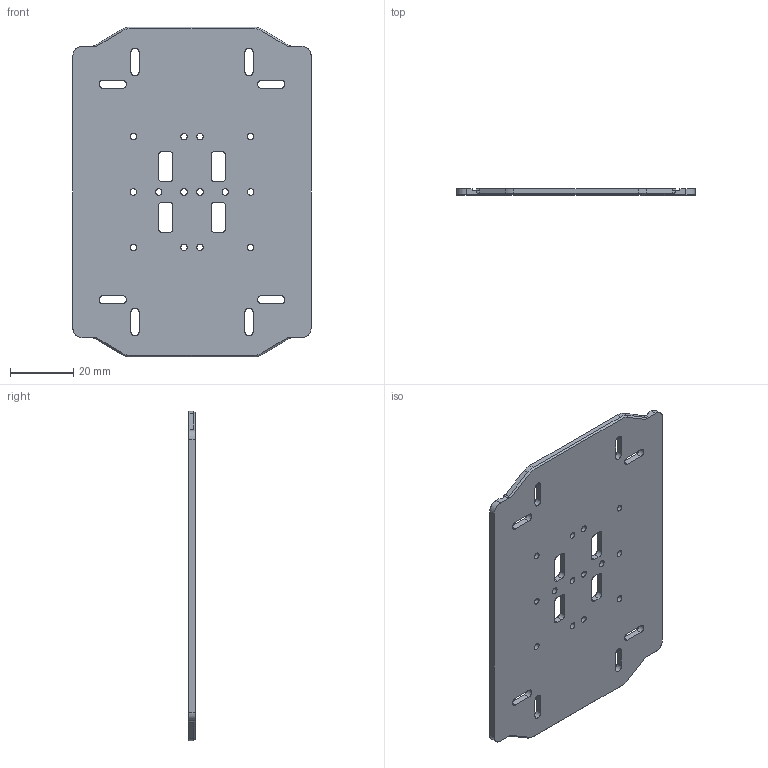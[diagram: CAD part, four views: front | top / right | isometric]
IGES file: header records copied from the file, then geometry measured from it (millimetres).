
Global section: file name: C:\Users\Knabe\Documents\Classes\8 Semester 8\DARwIn\Deliverables\DARwIn OP\DARwIn OP Part Files\CAD 2D\2D IGS\18_FR07_E160.igs; native system: NX V7.0; preprocessor: SIEMENS PLM Software NX 7.0; date: 20110525.175338; units: millimetre
Bounding box: 75.13 x 2 x 104 mm (x, y, z)
Surface area: 15800 mm2 (no closed solid volume)
Topology: 0 solids, 0 shells, 168 faces, 1252 edges, 1290 vertices
Faces by surface type: bspline 168
